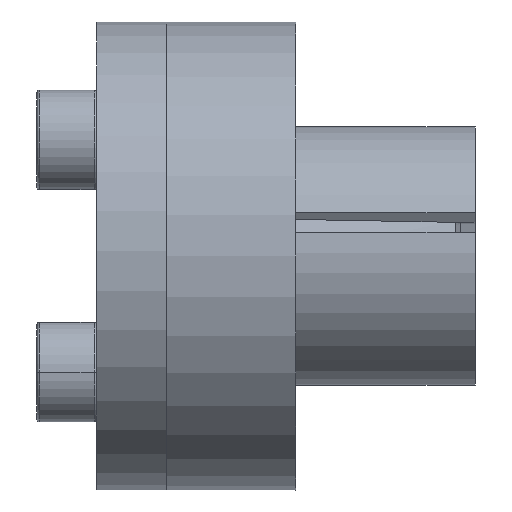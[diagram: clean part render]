
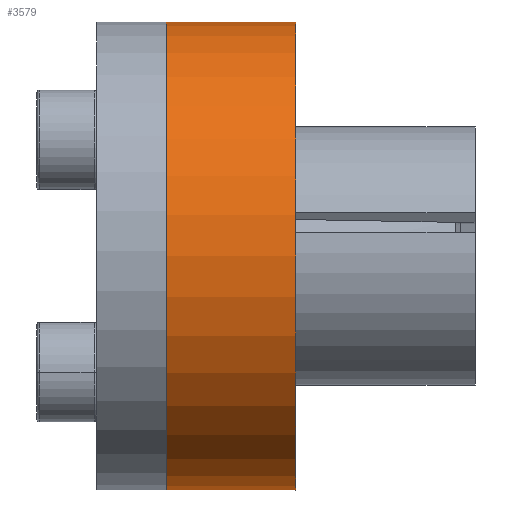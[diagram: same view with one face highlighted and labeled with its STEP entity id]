
A CAD part, front view. The second image highlights one B-rep face of the part: STEP entity #3579.
In plain terms, the highlighted cylindrical face has radius 23.5 mm (diameter 47 mm), a partial arc.
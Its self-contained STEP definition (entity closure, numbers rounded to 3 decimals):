
#7 = LINE ( 'NONE', #2350, #2406 ) ;
#20 = AXIS2_PLACEMENT_3D ( 'NONE', #2456, #2544, #2416 ) ;
#34 = CARTESIAN_POINT ( 'NONE',  ( 1., 0., 23.5 ) ) ;
#286 = CARTESIAN_POINT ( 'NONE',  ( 1., 0., -23.5 ) ) ;
#351 = CARTESIAN_POINT ( 'NONE',  ( -12., 0., 0. ) ) ;
#557 = DIRECTION ( 'NONE',  ( -1., 0., 0. ) ) ;
#573 = VERTEX_POINT ( 'NONE', #4027 ) ;
#664 = DIRECTION ( 'NONE',  ( 0., 0., 1. ) ) ;
#686 = CIRCLE ( 'NONE', #2735, 23.5 ) ;
#872 = CARTESIAN_POINT ( 'NONE',  ( -19., 0., -23.5 ) ) ;
#1172 = ORIENTED_EDGE ( 'NONE', *, *, #2333, .T. ) ;
#1258 = LINE ( 'NONE', #872, #3681 ) ;
#1309 = FACE_OUTER_BOUND ( 'NONE', #1581, .T. ) ;
#1398 = DIRECTION ( 'NONE',  ( -1., 0., 0. ) ) ;
#1495 = EDGE_CURVE ( 'NONE', #2540, #573, #7, .T. ) ;
#1510 = CIRCLE ( 'NONE', #20, 23.5 ) ;
#1581 = EDGE_LOOP ( 'NONE', ( #2176, #1172, #3288, #4028 ) ) ;
#1959 = VERTEX_POINT ( 'NONE', #286 ) ;
#2176 = ORIENTED_EDGE ( 'NONE', *, *, #3795, .F. ) ;
#2333 = EDGE_CURVE ( 'NONE', #1959, #2540, #1510, .T. ) ;
#2350 = CARTESIAN_POINT ( 'NONE',  ( -19., 0., 23.5 ) ) ;
#2406 = VECTOR ( 'NONE', #1398, 1000. ) ;
#2416 = DIRECTION ( 'NONE',  ( 0., 0., 1. ) ) ;
#2456 = CARTESIAN_POINT ( 'NONE',  ( 1., 0., 0. ) ) ;
#2488 = CARTESIAN_POINT ( 'NONE',  ( -12., 0., -23.5 ) ) ;
#2538 = DIRECTION ( 'NONE',  ( -1., 0., 0. ) ) ;
#2540 = VERTEX_POINT ( 'NONE', #34 ) ;
#2544 = DIRECTION ( 'NONE',  ( -1., 0., 0. ) ) ;
#2643 = CARTESIAN_POINT ( 'NONE',  ( -19., 0., 0. ) ) ;
#2735 = AXIS2_PLACEMENT_3D ( 'NONE', #351, #2538, #664 ) ;
#2908 = CYLINDRICAL_SURFACE ( 'NONE', #4035, 23.5 ) ;
#2971 = DIRECTION ( 'NONE',  ( -1., 0., 0. ) ) ;
#3223 = VERTEX_POINT ( 'NONE', #2488 ) ;
#3288 = ORIENTED_EDGE ( 'NONE', *, *, #1495, .T. ) ;
#3579 = ADVANCED_FACE ( 'NONE', ( #1309 ), #2908, .T. ) ;
#3586 = DIRECTION ( 'NONE',  ( 0., 0., 1. ) ) ;
#3681 = VECTOR ( 'NONE', #557, 1000. ) ;
#3795 = EDGE_CURVE ( 'NONE', #1959, #3223, #1258, .T. ) ;
#3958 = EDGE_CURVE ( 'NONE', #3223, #573, #686, .T. ) ;
#4027 = CARTESIAN_POINT ( 'NONE',  ( -12., 0., 23.5 ) ) ;
#4028 = ORIENTED_EDGE ( 'NONE', *, *, #3958, .F. ) ;
#4035 = AXIS2_PLACEMENT_3D ( 'NONE', #2643, #2971, #3586 ) ;
